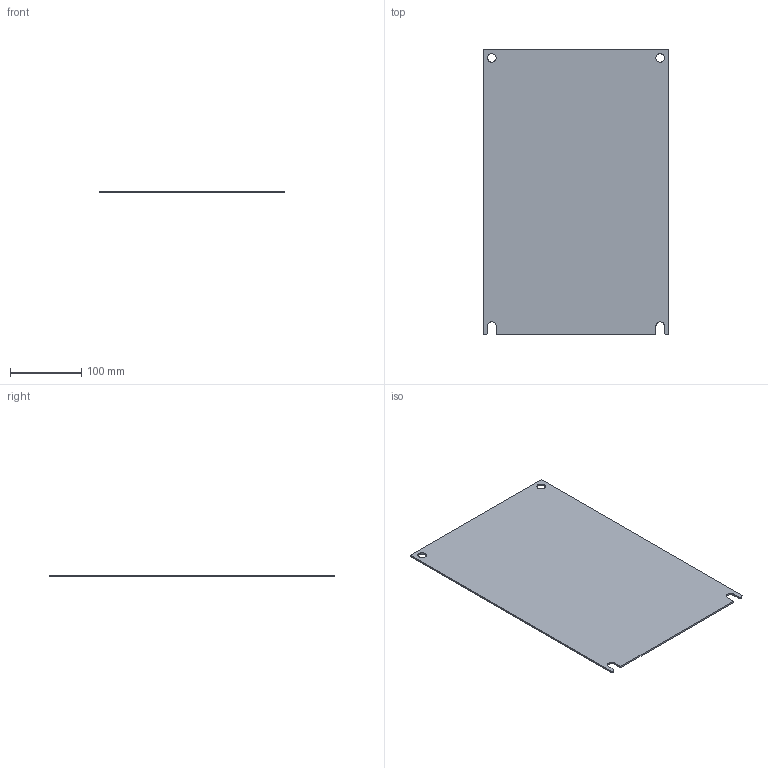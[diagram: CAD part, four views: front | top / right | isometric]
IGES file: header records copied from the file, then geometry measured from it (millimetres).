
Start section:  PTC IGES file: j3-11-22k-base.igs
Global section: file name: j3-11-22k-base.igs; native system: Pro/ENGINEER by Parametric Technology Corporation; preprocessor: 2006420; author: JE18792; organization: Unknown; date: 20101129.152512; units: millimetre
Bounding box: 260 x 400 x 2.3 mm (x, y, z)
Volume: 237739.4 mm3; surface area: 210069.5 mm2
Topology: 1 solids, 1 shells, 18 faces, 48 edges, 32 vertices
Faces by surface type: bspline 18
